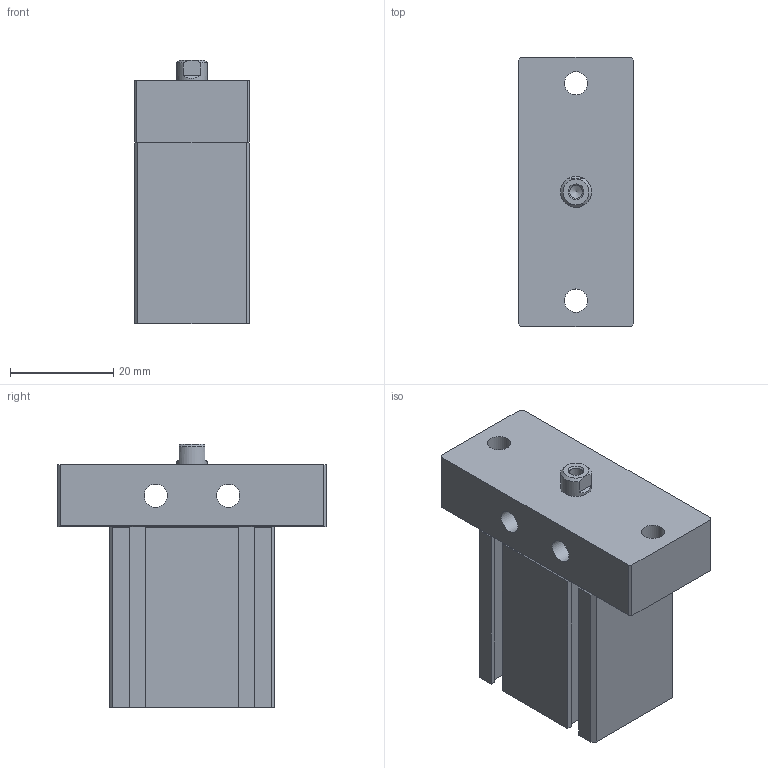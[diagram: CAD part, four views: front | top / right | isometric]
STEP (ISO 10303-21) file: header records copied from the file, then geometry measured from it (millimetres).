
FILE_DESCRIPTION((''),'2;1');
FILE_NAME('J:\3D電子目錄\氣缸\ND\ND\ND-F\ND16x10-F.stp','2008-03-12T13:52:34',('66-2f-008'),(''),'Autodesk Inventor 11','Autodesk Inventor 11','');
FILE_SCHEMA(('AUTOMOTIVE_DESIGN { 1 0 10303 214 1 1 1 1 }'));
Length unit declared in the file: millimetre
Products named in the file (1): ND16-F
Bounding box: 22.4 x 52 x 51 mm (x, y, z)
Volume: 33623.2 mm3; surface area: 11454.8 mm2
Topology: 2 solids, 2 shells, 110 faces, 268 edges, 171 vertices
Faces by surface type: plane 75, bspline 16, cone 10, cylinder 8, torus 1
Full cylindrical faces by diameter (mm): 1.5 x2, 4.5 x2, 6 x1, 10 x1, 18 x1, 19 x1
Entity records: 3158 total; most frequent: CARTESIAN_POINT 731, DIRECTION 466, ORIENTED_EDGE 464, EDGE_CURVE 232, VECTOR 180, LINE 180, VERTEX_POINT 164, EDGE_LOOP 156
